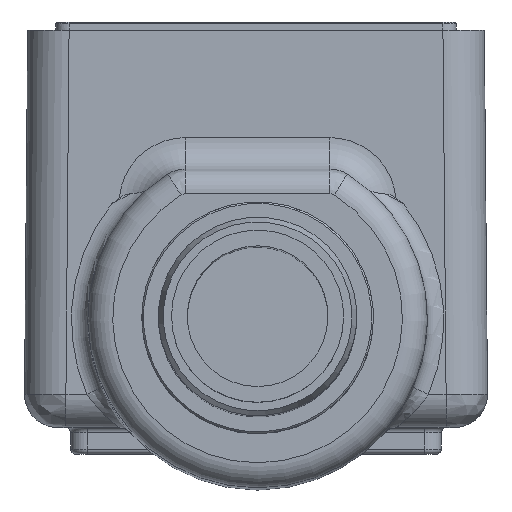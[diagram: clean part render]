
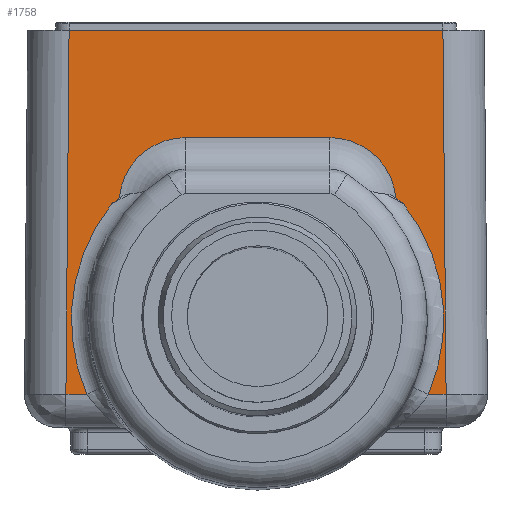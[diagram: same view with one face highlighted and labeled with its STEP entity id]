
A CAD part, front view. The second image highlights one B-rep face of the part: STEP entity #1758.
In plain terms, the highlighted planar face has unit normal (0, -1, 0.009).
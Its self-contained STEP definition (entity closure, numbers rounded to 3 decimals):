
#707=CARTESIAN_POINT('',(-4.27,-13.847,17.517));
#708=VERTEX_POINT('',#707);
#726=CARTESIAN_POINT('',(4.462,-13.847,17.517));
#727=VERTEX_POINT('',#726);
#735=CARTESIAN_POINT('',(4.462,-13.847,17.517));
#736=DIRECTION('',(-1.0,0.0,0.0));
#737=VECTOR('',#736,8.732);
#738=LINE('',#735,#737);
#739=EDGE_CURVE('',#727,#708,#738,.T.);
#749=CARTESIAN_POINT('',(8.445,-13.879,13.885));
#750=VERTEX_POINT('',#749);
#764=CARTESIAN_POINT('',(4.462,-13.882,13.517));
#765=DIRECTION('',(0.,-1.,0.009));
#766=DIRECTION('',(0.,0.009,1.));
#767=AXIS2_PLACEMENT_3D('',#764,#765,#766);
#768=CIRCLE('',#767,4.0);
#769=EDGE_CURVE('',#750,#727,#768,.T.);
#832=CARTESIAN_POINT('',(-8.253,-13.879,13.885));
#833=VERTEX_POINT('',#832);
#834=CARTESIAN_POINT('',(-4.27,-13.882,13.517));
#835=DIRECTION('',(0.,-1.,0.009));
#836=DIRECTION('',(0.,0.009,1.));
#837=AXIS2_PLACEMENT_3D('',#834,#835,#836);
#838=CIRCLE('',#837,4.0);
#839=EDGE_CURVE('',#708,#833,#838,.T.);
#1065=CARTESIAN_POINT('',(-8.711,-13.882,13.517));
#1066=VERTEX_POINT('',#1065);
#1074=CARTESIAN_POINT('',(-10.215,-13.982,2.017));
#1075=VERTEX_POINT('',#1074);
#1076=CARTESIAN_POINT('',(0.096,-13.943,6.517));
#1077=DIRECTION('',(0.,-1.,0.009));
#1078=DIRECTION('',(-0.953,0.003,0.304));
#1079=AXIS2_PLACEMENT_3D('',#1076,#1077,#1078);
#1080=CIRCLE('',#1079,11.25);
#1081=EDGE_CURVE('',#1066,#1075,#1080,.T.);
#1233=CARTESIAN_POINT('',(-8.711,-13.882,13.517));
#1234=CARTESIAN_POINT('',(-8.707,-13.882,13.521));
#1235=CARTESIAN_POINT('',(-8.702,-13.882,13.525));
#1236=CARTESIAN_POINT('',(-8.698,-13.882,13.528));
#1237=CARTESIAN_POINT('',(-8.549,-13.881,13.651));
#1238=CARTESIAN_POINT('',(-8.402,-13.88,13.77));
#1239=CARTESIAN_POINT('',(-8.254,-13.879,13.885));
#1240=B_SPLINE_CURVE_WITH_KNOTS('',3,(#1233,#1234,#1235,#1236,#1237,#1238,#1239),.UNSPECIFIED.,.F.,.U.,(4,3,4),(-0.002,0.0,0.058),.UNSPECIFIED.);
#1241=EDGE_CURVE('',#833,#1066,#1240,.F.);
#1283=CARTESIAN_POINT('',(8.903,-13.882,13.517));
#1284=VERTEX_POINT('',#1283);
#1292=CARTESIAN_POINT('',(8.446,-13.879,13.885));
#1293=CARTESIAN_POINT('',(8.594,-13.88,13.77));
#1294=CARTESIAN_POINT('',(8.741,-13.881,13.651));
#1295=CARTESIAN_POINT('',(8.889,-13.882,13.528));
#1296=CARTESIAN_POINT('',(8.894,-13.882,13.525));
#1297=CARTESIAN_POINT('',(8.898,-13.882,13.521));
#1298=CARTESIAN_POINT('',(8.903,-13.882,13.517));
#1299=B_SPLINE_CURVE_WITH_KNOTS('',3,(#1292,#1293,#1294,#1295,#1296,#1297,#1298),.UNSPECIFIED.,.F.,.U.,(4,3,4),(0.338,0.376,0.377),.UNSPECIFIED.);
#1300=EDGE_CURVE('',#1284,#750,#1299,.F.);
#1541=CARTESIAN_POINT('',(10.407,-13.982,2.017));
#1542=VERTEX_POINT('',#1541);
#1550=CARTESIAN_POINT('',(0.096,-13.943,6.517));
#1551=DIRECTION('',(0.,-1.,0.009));
#1552=DIRECTION('',(0.953,0.003,0.304));
#1553=AXIS2_PLACEMENT_3D('',#1550,#1551,#1552);
#1554=CIRCLE('',#1553,11.25);
#1555=EDGE_CURVE('',#1542,#1284,#1554,.T.);
#1706=CARTESIAN_POINT('',(14.0,-14.,0.0));
#1707=DIRECTION('',(0.,-1.,0.009));
#1708=DIRECTION('',(1.0,0.0,0.0));
#1709=AXIS2_PLACEMENT_3D('',#1706,#1707,#1708);
#1710=PLANE('',#1709);
#1711=ORIENTED_EDGE('',*,*,#769,.F.);
#1712=ORIENTED_EDGE('',*,*,#1300,.F.);
#1713=ORIENTED_EDGE('',*,*,#1555,.F.);
#1714=CARTESIAN_POINT('',(11.482,-13.982,2.017));
#1715=VERTEX_POINT('',#1714);
#1716=CARTESIAN_POINT('',(11.482,-13.982,2.017));
#1717=DIRECTION('',(-1.0,0.0,0.0));
#1718=VECTOR('',#1717,1.076);
#1719=LINE('',#1716,#1718);
#1720=EDGE_CURVE('',#1715,#1542,#1719,.T.);
#1721=ORIENTED_EDGE('',*,*,#1720,.F.);
#1722=CARTESIAN_POINT('',(11.291,-13.791,24.));
#1723=VERTEX_POINT('',#1722);
#1724=CARTESIAN_POINT('',(11.291,-13.791,24.));
#1725=DIRECTION('',(0.009,-0.009,-1.));
#1726=VECTOR('',#1725,21.984);
#1727=LINE('',#1724,#1726);
#1728=EDGE_CURVE('',#1723,#1715,#1727,.T.);
#1729=ORIENTED_EDGE('',*,*,#1728,.F.);
#1730=CARTESIAN_POINT('',(-11.291,-13.791,24.));
#1731=VERTEX_POINT('',#1730);
#1732=CARTESIAN_POINT('',(11.291,-13.791,24.));
#1733=DIRECTION('',(-1.0,0.0,0.0));
#1734=VECTOR('',#1733,22.581);
#1735=LINE('',#1732,#1734);
#1736=EDGE_CURVE('',#1723,#1731,#1735,.T.);
#1737=ORIENTED_EDGE('',*,*,#1736,.T.);
#1738=CARTESIAN_POINT('',(-11.482,-13.982,2.017));
#1739=VERTEX_POINT('',#1738);
#1740=CARTESIAN_POINT('',(-11.482,-13.982,2.017));
#1741=DIRECTION('',(0.009,0.009,1.));
#1742=VECTOR('',#1741,21.984);
#1743=LINE('',#1740,#1742);
#1744=EDGE_CURVE('',#1739,#1731,#1743,.T.);
#1745=ORIENTED_EDGE('',*,*,#1744,.F.);
#1746=CARTESIAN_POINT('',(-10.215,-13.982,2.017));
#1747=DIRECTION('',(-1.0,0.0,0.0));
#1748=VECTOR('',#1747,1.268);
#1749=LINE('',#1746,#1748);
#1750=EDGE_CURVE('',#1075,#1739,#1749,.T.);
#1751=ORIENTED_EDGE('',*,*,#1750,.F.);
#1752=ORIENTED_EDGE('',*,*,#1081,.F.);
#1753=ORIENTED_EDGE('',*,*,#1241,.F.);
#1754=ORIENTED_EDGE('',*,*,#839,.F.);
#1755=ORIENTED_EDGE('',*,*,#739,.F.);
#1756=EDGE_LOOP('',(#1711,#1712,#1713,#1721,#1729,#1737,#1745,#1751,#1752,#1753,#1754,#1755));
#1757=FACE_OUTER_BOUND('',#1756,.T.);
#1758=ADVANCED_FACE('',(#1757),#1710,.T.);
